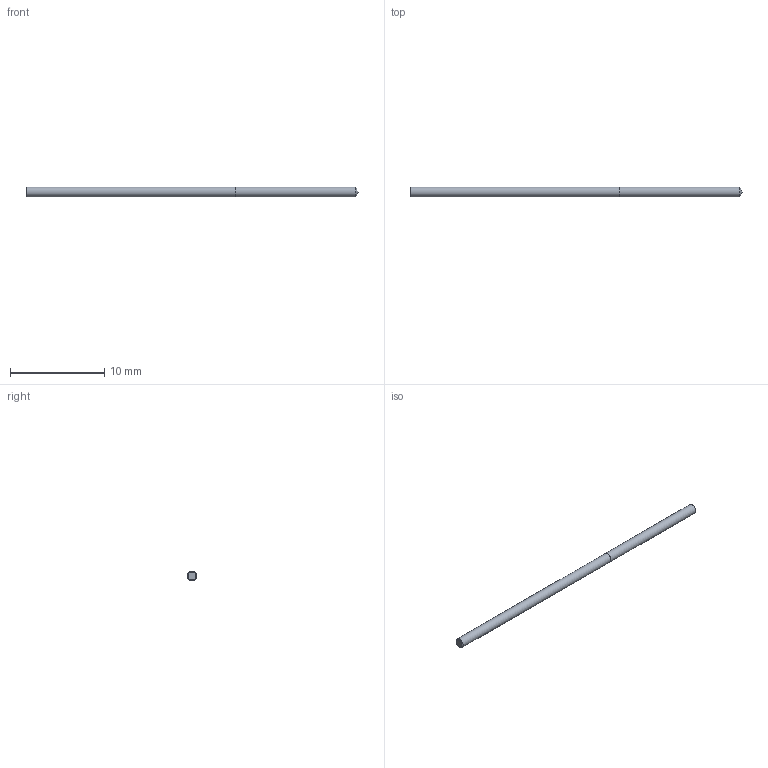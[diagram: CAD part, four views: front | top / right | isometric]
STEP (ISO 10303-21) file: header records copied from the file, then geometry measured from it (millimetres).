
FILE_DESCRIPTION (( 'STEP AP214' ), '1' );
FILE_NAME ('03-2401.STEP', '2022-06-03T07:16:40', ( 'USER' ), ( '' ), 'SwSTEP 2.0', 'SolidWorks 2018', '' );
FILE_SCHEMA (( 'AUTOMOTIVE_DESIGN' ));
Length unit declared in the file: inch
Products named in the file (1): 03-2401
Bounding box: 35.14 x 1.04 x 1.04 mm (x, y, z)
Volume: 29.8 mm3; surface area: 117.5 mm2
Topology: 2 solids, 2 shells, 7 faces, 11 edges, 7 vertices
Faces by surface type: plane 3, cylinder 2, cone 2
Full cylindrical faces by diameter (mm): 1.041 x2
Entity records: 214 total; most frequent: DIRECTION 26, CARTESIAN_POINT 18, AXIS2_PLACEMENT_3D 13, ORIENTED_EDGE 10, EDGE_LOOP 10, FACE_OUTER_BOUND 9, DIMENSIONAL_EXPONENTS 7, ADVANCED_FACE 7
